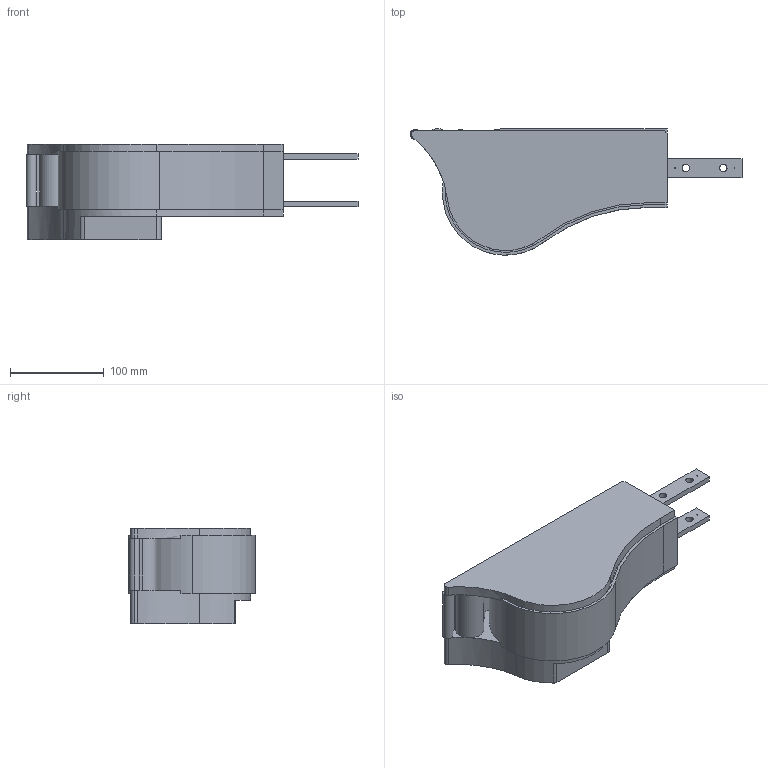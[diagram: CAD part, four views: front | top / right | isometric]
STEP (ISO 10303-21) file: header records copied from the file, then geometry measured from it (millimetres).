
FILE_DESCRIPTION (( 'STEP AP214' ), '1' );
FILE_NAME ('CS SL Aandr. - Omloop.65 Omloop rol.STEP', '2017-02-08T07:32:55', ( '' ), ( '' ), 'SwSTEP 2.0', 'SolidWorks 2016', '' );
FILE_SCHEMA (( 'AUTOMOTIVE_DESIGN' ));
Length unit declared in the file: millimetre
Products named in the file (1): CS SL Aandr. - Omloop.65 Omloop rol
Bounding box: 354.5 x 134.96 x 101.6 mm (x, y, z)
Volume: 2292254.9 mm3; surface area: 142396.9 mm2
Topology: 1 solids, 1 shells, 98 faces, 296 edges, 192 vertices
Faces by surface type: plane 56, cylinder 42
Entity records: 3437 total; most frequent: DIRECTION 609, ORIENTED_EDGE 592, CARTESIAN_POINT 587, EDGE_CURVE 296, AXIS2_PLACEMENT_3D 214, VERTEX_POINT 192, LINE 181, VECTOR 181
